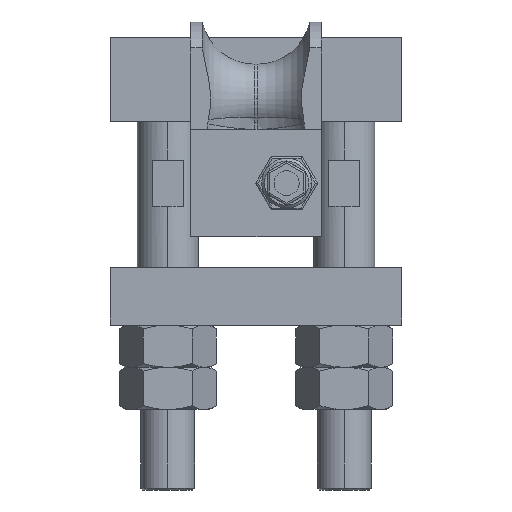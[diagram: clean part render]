
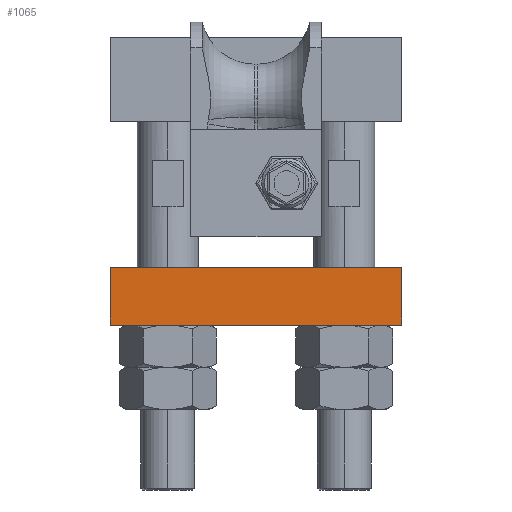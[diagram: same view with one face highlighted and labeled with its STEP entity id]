
A CAD part, left-side view. The second image highlights one B-rep face of the part: STEP entity #1065.
In plain terms, the highlighted planar face has unit normal (-1, 0, 0).
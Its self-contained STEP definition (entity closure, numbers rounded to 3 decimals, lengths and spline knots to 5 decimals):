
#1065=ADVANCED_FACE('0:1505',(#2043),#2044,.T.);
#2043=FACE_OUTER_BOUND('',#7485,.T.);
#2044=PLANE('',#7486);
#7485=EDGE_LOOP('',(#10073,#10074,#10075,#10076));
#7486=AXIS2_PLACEMENT_3D('',#10077,#10078,#10079);
#10073=ORIENTED_EDGE('',*,*,#11529,.F.);
#10074=ORIENTED_EDGE('',*,*,#11517,.F.);
#10075=ORIENTED_EDGE('',*,*,#11526,.F.);
#10076=ORIENTED_EDGE('',*,*,#11522,.F.);
#10077=CARTESIAN_POINT('',(-0.094,-0.018,-0.26173));
#10078=DIRECTION('',(-1.0,0.0,0.));
#10079=DIRECTION('',(0.,0.0,1.0));
#11517=EDGE_CURVE('0:1538',#12809,#12811,#12812,.T.);
#11522=EDGE_CURVE('0:1550',#12818,#12820,#12821,.T.);
#11526=EDGE_CURVE('0:1559',#12820,#12809,#12825,.T.);
#11529=EDGE_CURVE('0:1565',#12811,#12818,#12828,.T.);
#12809=VERTEX_POINT('',#15516);
#12811=VERTEX_POINT('',#15519);
#12812=LINE('',#15520,#15521);
#12818=VERTEX_POINT('',#15529);
#12820=VERTEX_POINT('',#15532);
#12821=LINE('',#15533,#15534);
#12825=LINE('',#15540,#15541);
#12828=LINE('',#15545,#15546);
#15516=CARTESIAN_POINT('',(-0.094,0.03,-0.04173));
#15519=CARTESIAN_POINT('',(-0.094,-0.046,-0.04173));
#15520=CARTESIAN_POINT('',(-0.094,0.03,-0.04173));
#15521=VECTOR('',#17031,1.0);
#15529=CARTESIAN_POINT('',(-0.094,-0.046,-0.05673));
#15532=CARTESIAN_POINT('',(-0.094,0.03,-0.05673));
#15533=CARTESIAN_POINT('',(-0.094,-0.046,-0.05673));
#15534=VECTOR('',#17035,1.0);
#15540=CARTESIAN_POINT('',(-0.094,0.03,-0.05673));
#15541=VECTOR('',#17038,1.0);
#15545=CARTESIAN_POINT('',(-0.094,-0.046,-0.04173));
#15546=VECTOR('',#17040,1.0);
#17031=DIRECTION('',(0.0,-1.0,0.0));
#17035=DIRECTION('',(0.0,1.0,0.0));
#17038=DIRECTION('',(0.,0.0,1.0));
#17040=DIRECTION('',(0.,0.0,-1.0));
